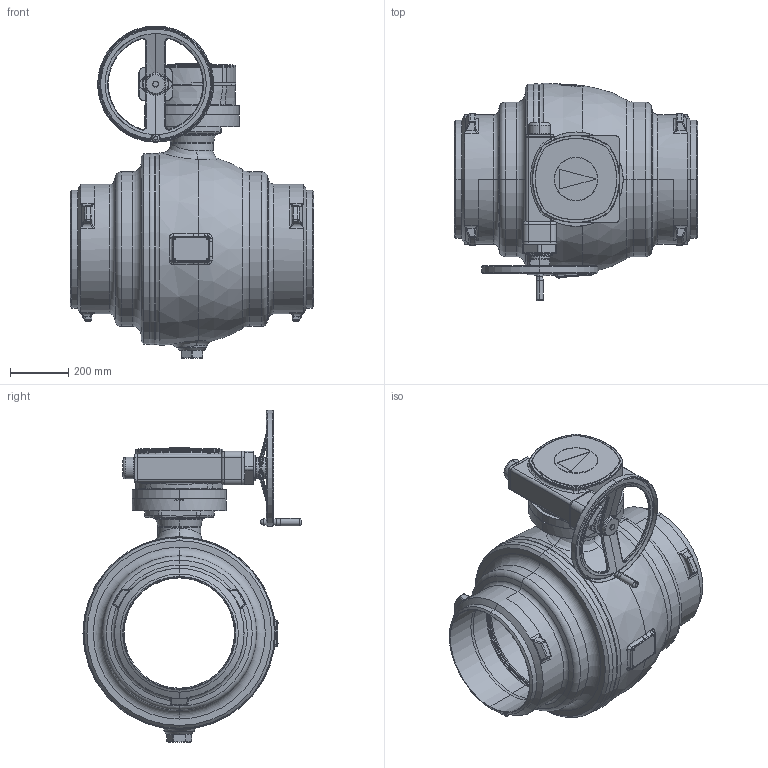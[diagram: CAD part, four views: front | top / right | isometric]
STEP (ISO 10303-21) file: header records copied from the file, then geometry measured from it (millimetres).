
FILE_DESCRIPTION((''),'2;1');
FILE_NAME('ASM0015_ASM','2016-04-29T',('schwaba'),('RAND'),'PRO/ENGINEER BY PARAMETRIC TECHNOLOGY CORPORATION, 2013410','PRO/ENGINEER BY PARAMETRIC TECHNOLOGY CORPORATION, 2013410','');
FILE_SCHEMA(('CONFIG_CONTROL_DESIGN'));
Products named in the file (7): KHISL400VSL400P040MKK_SW0001; PRT0018; PRT0019; PRT0020; ASM0017_ASM; ASM0016_ASM; ASM0015_ASM
Assembly tree (6 placements, depth 4):
  ASM0015_ASM
    KHISL400VSL400P040MKK_SW0001
    ASM0016_ASM
      ASM0017_ASM
        PRT0018
        PRT0019
        PRT0020
Bounding box: 838 x 750.62 x 1143 mm (x, y, z)
Volume: 84888604 mm3; surface area: 7008748.7 mm2
Topology: 4 solids, 12 shells, 2254 faces, 5649 edges, 3502 vertices
Faces by surface type: plane 1044, cylinder 488, torus 259, cone 228, bspline 191, sphere 44
Entity records: 131857 total; most frequent: CARTESIAN_POINT 80398, ORIENTED_EDGE 11222, DIRECTION 10149, EDGE_CURVE 5611, AXIS2_PLACEMENT_3D 4180, VERTEX_POINT 3502, EDGE_LOOP 2453, FACE_OUTER_BOUND 2254
